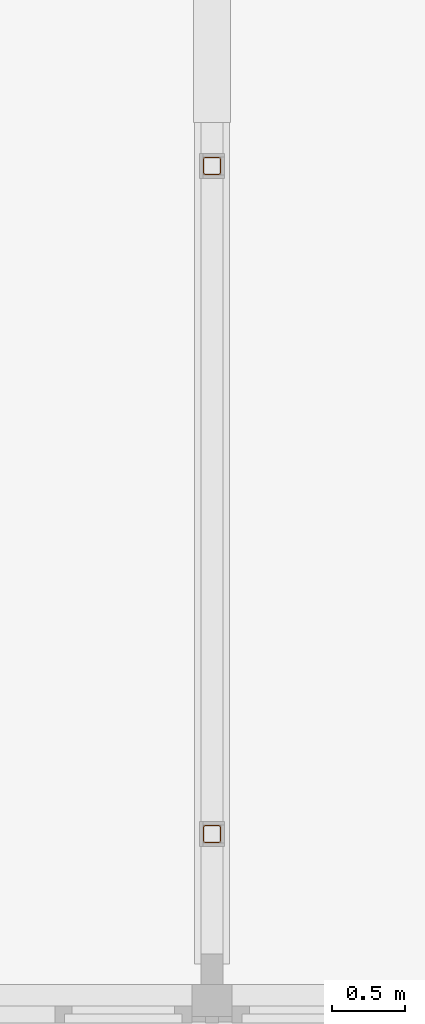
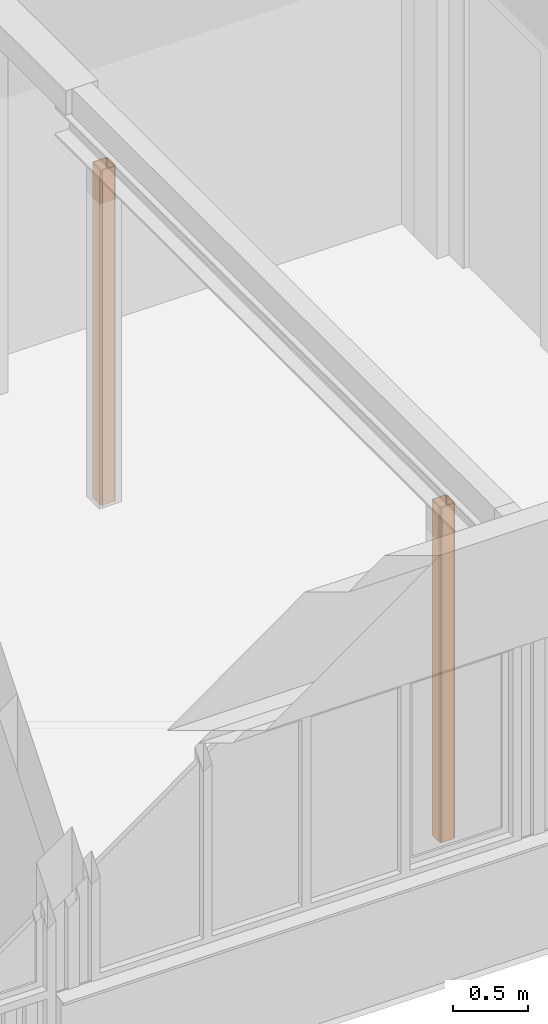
# One storey, part 103 of 117: 2 proxies.
"""IFC2X3 building model written with IfcOpenShell, lengths in millimetres."""

import ifcopenshell
import ifcopenshell.guid

model = None  # the IFC model being written
_history = None  # IfcOwnerHistory: only IFC2X3 demands one
_inside = {}  # id of a spatial element -> (the spatial element, [elements in it])
_under = {}  # id of a project, library or spatial element -> (it, [spatial elements below it])
_declared = {}  # id of a project -> (the project, [libraries it declares])
_typed = {}  # id of a type object -> (the type object, [elements of that type])
_made_of = {}  # id of a material, layer set ... -> (it, [elements and type objects made of it])


def new_model(schema):
    """Start an empty IFC model of exactly this schema.

    Asked for "IFC4X3", IfcOpenShell would pick the latest addendum, in which some entities
    have other attributes; the version numbers below select the first issue.
    IFC2X3 requires an IfcOwnerHistory on every rooted entity: one is made here for all.
    """
    global model, _history
    if schema == "IFC4X3":
        model = ifcopenshell.file(schema_version=(4, 3, 0, 0))
    else:
        model = ifcopenshell.file(schema=schema)
    _inside.clear()
    _under.clear()
    _declared.clear()
    _typed.clear()
    _made_of.clear()
    _history = None
    if model.schema == "IFC2X3":
        org = make("IfcOrganization", Name="unknown")
        user = make(
            "IfcPersonAndOrganization",
            ThePerson=make("IfcPerson", FamilyName="unknown"),
            TheOrganization=org,
        )
        app = make(
            "IfcApplication",
            ApplicationDeveloper=org,
            Version="unknown",
            ApplicationFullName="unknown",
            ApplicationIdentifier="unknown",
        )
        _history = make(
            "IfcOwnerHistory",
            OwningUser=user,
            OwningApplication=app,
            ChangeAction="ADDED",
            CreationDate=0,
        )
    return model


def make(cls, **values):
    """One entity of the class cls with the attributes given. An attribute that is None is left unset."""
    return model.create_entity(
        cls, **{name: value for name, value in values.items() if value is not None}
    )


def entity(cls, *values):
    """Any entity or typed value of the class cls, its attributes in the order of the schema. None: left unset."""
    e = model.create_entity(cls)
    for i, value in enumerate(values):
        if value is not None:
            e[i] = value
    return e


def rooted(cls, **values):
    """An entity with a GlobalId (a new one), such as an element, a storey or a relation."""
    return make(cls, GlobalId=ifcopenshell.guid.new(), OwnerHistory=_history, **values)


def si_unit(unit_type, name, prefix=None):
    """IfcSIUnit, for example si_unit("LENGTHUNIT", "METRE", prefix="MILLI")."""
    return make("IfcSIUnit", UnitType=unit_type, Prefix=prefix, Name=name)


def converted_unit(unit_type, name, factor, base, dimensions=None, offset=None):
    """IfcConversionBasedUnit, such as the inch: factor (a typed value) times the base unit."""
    return make(
        "IfcConversionBasedUnit"
        if offset is None
        else "IfcConversionBasedUnitWithOffset",
        ConversionOffset=offset,
        Dimensions=None
        if dimensions is None
        else entity("IfcDimensionalExponents", *dimensions),
        UnitType=unit_type,
        Name=name,
        ConversionFactor=make(
            "IfcMeasureWithUnit", ValueComponent=factor, UnitComponent=base
        ),
    )


def derived_unit(unit_type, elements):
    """IfcDerivedUnit: a product of units, each with its exponent."""
    return make(
        "IfcDerivedUnit",
        Elements=[
            make("IfcDerivedUnitElement", Unit=unit, Exponent=power)
            for unit, power in elements
        ],
        UnitType=unit_type,
    )


def money_unit(currency):
    """IfcMonetaryUnit."""
    return make("IfcMonetaryUnit", Currency=currency)


def assignment(units):
    """IfcUnitAssignment: the units of a project."""
    return None if units is None else make("IfcUnitAssignment", Units=units)


def point(xyz):
    """IfcCartesianPoint."""
    return None if xyz is None else make("IfcCartesianPoint", Coordinates=xyz)


def direction(xyz):
    """IfcDirection."""
    return None if xyz is None else make("IfcDirection", DirectionRatios=xyz)


def frame(location, z_axis=None, x_axis=None):
    """IfcAxis2Placement3D, a coordinate frame: its origin and axes. An axis left out is left unset."""
    return make(
        "IfcAxis2Placement3D",
        Location=point(location),
        Axis=direction(z_axis),
        RefDirection=direction(x_axis),
    )


def origin_with_axes():
    """The frame at (0, 0, 0) with the z axis (0, 0, 1) and the x axis (1, 0, 0) written out."""
    return frame((0.0, 0.0, 0.0), z_axis=(0.0, 0.0, 1.0), x_axis=(1.0, 0.0, 0.0))


def place(relative_to, where):
    """IfcLocalPlacement: puts the frame where relative to a parent placement (None: the world)."""
    return make(
        "IfcLocalPlacement", PlacementRelTo=relative_to, RelativePlacement=where
    )


def context(
    kind, dimensions, precision=None, world=None, true_north=None, identifier=None
):
    """IfcGeometricRepresentationContext, for example the 3D "Model" context."""
    return make(
        "IfcGeometricRepresentationContext",
        ContextIdentifier=identifier,
        ContextType=kind,
        CoordinateSpaceDimension=dimensions,
        Precision=precision,
        WorldCoordinateSystem=world,
        TrueNorth=true_north,
    )


def subcontext(parent, identifier, kind, view, scale=None):
    """IfcGeometricRepresentationSubContext, for example "Body" below "Model"."""
    return make(
        "IfcGeometricRepresentationSubContext",
        ContextIdentifier=identifier,
        ContextType=kind,
        ParentContext=parent,
        TargetScale=scale,
        TargetView=view,
    )


def project(units=None, contexts=None):
    """IfcProject with its units and contexts."""
    return rooted(
        "IfcProject",
        Name="project",
        RepresentationContexts=contexts,
        UnitsInContext=assignment(units),
    )


def spatial(cls, under=None, at=None, **own):
    """A site, building, storey or space (cls), placed at a placement, below another one or the project."""
    s = rooted(cls, ObjectPlacement=at, **own)
    if under is not None:
        _under.setdefault(under.id(), (under, []))[1].append(s)
    return s


def faces_of(points, faces, orient=None, outer=None):
    """IfcFace entities. A face is a list of loops; a loop is a list of indices into points, from 0.

    orient and outer hold one flag for each loop. By default every Orientation is true, the
    first loop of a face is its IfcFaceOuterBound and the others are IfcFaceBound.
    """
    made = []
    for i, loops in enumerate(faces):
        bounds = []
        for j, loop in enumerate(loops):
            is_outer = j == 0 if outer is None else outer[i][j]
            bounds.append(
                make(
                    "IfcFaceOuterBound" if is_outer else "IfcFaceBound",
                    Bound=make("IfcPolyLoop", Polygon=[points[k] for k in loop]),
                    Orientation=True if orient is None else orient[i][j],
                )
            )
        made.append(make("IfcFace", Bounds=bounds))
    return made


def faceted_brep(points, faces, orient=None, outer=None, voids=None):
    """IfcFacetedBrep: a solid bounded by flat faces; with voids (closed shells), ...WithVoids."""
    shared = [point(p) for p in points]
    hull = make("IfcClosedShell", CfsFaces=faces_of(shared, faces, orient, outer))
    if voids is None:
        return make("IfcFacetedBrep", Outer=hull)
    return make(
        "IfcFacetedBrepWithVoids",
        Outer=hull,
        Voids=[
            make(cls, CfsFaces=faces_of(shared, fs, o, b)) for cls, fs, o, b in voids
        ],
    )


def shape(context_of_items, identifier, shape_type, items):
    """IfcShapeRepresentation: the items that make up one representation, for example the "Body"."""
    return make(
        "IfcShapeRepresentation",
        ContextOfItems=context_of_items,
        RepresentationIdentifier=identifier,
        RepresentationType=shape_type,
        Items=items,
    )


def source(mapping_origin, context_of_items, identifier, shape_type, items):
    """IfcRepresentationMap: a shape defined once, which mapped items show again and again."""
    return make(
        "IfcRepresentationMap",
        MappingOrigin=mapping_origin,
        MappedRepresentation=shape(context_of_items, identifier, shape_type, items),
    )


def transform(
    local_origin,
    x_axis=None,
    y_axis=None,
    z_axis=None,
    scale=None,
    scale2=None,
    scale3=None,
    uniform=True,
):
    """IfcCartesianTransformationOperator3D, or its non-uniform kind. x_axis, y_axis, z_axis: its Axis1, 2, 3."""
    if uniform:
        return make(
            "IfcCartesianTransformationOperator3D",
            Axis1=direction(x_axis),
            Axis2=direction(y_axis),
            LocalOrigin=point(local_origin),
            Scale=scale,
            Axis3=direction(z_axis),
        )
    return make(
        "IfcCartesianTransformationOperator3DnonUniform",
        Axis1=direction(x_axis),
        Axis2=direction(y_axis),
        LocalOrigin=point(local_origin),
        Scale=scale,
        Axis3=direction(z_axis),
        Scale2=scale2,
        Scale3=scale3,
    )


def mapped(mapping_source, mapping_target):
    """IfcMappedItem: shows the shape of a source again, moved by a transform."""
    return make(
        "IfcMappedItem", MappingSource=mapping_source, MappingTarget=mapping_target
    )


def material(Name=None, Category=None):
    """IfcMaterial."""
    return make("IfcMaterial", Name=Name, Category=Category)


def made_of(thing, what):
    """Note that an element or type object is made of a material, layer set ...; save() writes the relation."""
    if what is not None:
        _made_of.setdefault(what.id(), (what, []))[1].append(thing)
    return thing


def type_object(cls, material=None, **own):
    """A type object (cls), such as IfcWallType, which elements share."""
    return made_of(rooted(cls, **own), material)


def type_shapes(of_type, sources):
    """Give a type object the sources (RepresentationMaps) that its elements show as mapped items."""
    of_type.RepresentationMaps = sources


def element(
    cls,
    number,
    at=None,
    inside=None,
    cuts=None,
    type_object=None,
    material=None,
    context=None,
    identifier="Body",
    shape_type=None,
    held_by="IfcProductDefinitionShape",
    body=None,
    shapes=None,
    **own,
):
    """One element of the class cls, such as IfcWall. Its Tag is "e" and its number.

    at: its placement. inside: the storey or other place that contains it. cuts: it is an
    opening in that element (IfcRelVoidsElement). A single representation is given by context,
    identifier, shape_type and body (its items); several are given by shapes. held_by: the class
    of the entity that holds the representations. save() writes the other relations.
    """
    e = rooted(cls, Tag="e%d" % number, ObjectPlacement=at, **own)
    if body is not None:
        shapes = [shape(context, identifier, shape_type, body)]
    if shapes is not None:
        e.Representation = make(held_by, Representations=shapes)
    if inside is not None:
        _inside.setdefault(inside.id(), (inside, []))[1].append(e)
    if cuts is not None:
        rooted(
            "IfcRelVoidsElement", RelatingBuildingElement=cuts, RelatedOpeningElement=e
        )
    if type_object is not None:
        _typed.setdefault(type_object.id(), (type_object, []))[1].append(e)
    return made_of(e, material)


def aggregate(whole, parts):
    """IfcRelAggregates: a whole, such as a stair, and the parts it consists of."""
    return rooted("IfcRelAggregates", RelatingObject=whole, RelatedObjects=parts)


def save(model, path):
    """Write the relations noted so far, then the file.

    IfcRelAggregates (storeys below a building ...), IfcRelContainedInSpatialStructure (elements
    in a storey), IfcRelDefinesByType, IfcRelAssociatesMaterial and IfcRelDeclares: one each for
    every whole, place, type object, material and project.
    """
    for whole, parts in _under.values():
        aggregate(whole, parts)
    for where, things in _inside.values():
        rooted(
            "IfcRelContainedInSpatialStructure",
            RelatedElements=things,
            RelatingStructure=where,
        )
    for kind, things in _typed.values():
        rooted("IfcRelDefinesByType", RelatedObjects=things, RelatingType=kind)
    for what, things in _made_of.values():
        rooted("IfcRelAssociatesMaterial", RelatedObjects=things, RelatingMaterial=what)
    for by, libraries in _declared.values():
        rooted("IfcRelDeclares", RelatingContext=by, RelatedDefinitions=libraries)
    model.write(path)


model = new_model("IFC2X3")

# Units and contexts
model_context = context("Model", 3, precision=0.01, world=origin_with_axes(), true_north=direction((0.0, 1.0)))
body_context = subcontext(model_context, "Body", "Model", "MODEL_VIEW")
ifc_project = project(units=[si_unit("LENGTHUNIT", "METRE", prefix="MILLI"), si_unit("AREAUNIT", "SQUARE_METRE"), si_unit("VOLUMEUNIT", "CUBIC_METRE"), converted_unit("PLANEANGLEUNIT", "DEGREE", entity("IfcPlaneAngleMeasure", 0.0174532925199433), si_unit("PLANEANGLEUNIT", "RADIAN"), dimensions=[0, 0, 0, 0, 0, 0, 0]), money_unit("EUR"), converted_unit("TIMEUNIT", "Year", entity("IfcTimeMeasure", 31557600.0), si_unit("TIMEUNIT", "SECOND"), dimensions=[0, 0, 1, 0, 0, 0, 0]), si_unit("MASSUNIT", "GRAM", prefix="KILO"), si_unit("THERMODYNAMICTEMPERATUREUNIT", "DEGREE_CELSIUS"), si_unit("LUMINOUSINTENSITYUNIT", "LUMEN"), si_unit("ENERGYUNIT", "JOULE", prefix="MEGA"), derived_unit("THERMALCONDUCTANCEUNIT", [(si_unit("POWERUNIT", "WATT"), 1), (si_unit("LENGTHUNIT", "METRE"), -1), (si_unit("THERMODYNAMICTEMPERATUREUNIT", "KELVIN"), -1)]), derived_unit("SPECIFICHEATCAPACITYUNIT", [(si_unit("ENERGYUNIT", "JOULE"), 1), (si_unit("MASSUNIT", "GRAM", prefix="KILO"), -1), (si_unit("THERMODYNAMICTEMPERATUREUNIT", "KELVIN"), -1)]), derived_unit("MASSDENSITYUNIT", [(si_unit("MASSUNIT", "GRAM", prefix="KILO"), 1), (si_unit("VOLUMEUNIT", "CUBIC_METRE"), -1)])], contexts=[model_context])

# Site, building, storey
site_placement = place(None, origin_with_axes())
site = spatial("IfcSite", under=ifc_project, at=site_placement, Name="Site", CompositionType="ELEMENT")
building_placement = place(site_placement, origin_with_axes())
building = spatial("IfcBuilding", under=site, at=building_placement, Name="Naam gebouw", CompositionType="ELEMENT")
storey_placement = place(building_placement, frame((0.0, 0.0, 4150.0), z_axis=(0.0, 0.0, 1.0), x_axis=(1.0, 0.0, 0.0)))
storey = spatial("IfcBuildingStorey", under=building, at=storey_placement, Name="1e verdieping N", CompositionType="ELEMENT", Elevation=4150.0)

# Proxies
ifc_material = material(Name="Metaal - Staal AFW")
building_element_proxy_type = type_object("IfcBuildingElementProxyType", Name="Buis vk warmgew kolom 27", PredefinedType="NOTDEFINED")
shared_shape = source(origin_with_axes(), body_context, "Body", "Brep", [
    faceted_brep([(47.4, -60.0, 0.0), (47.4, -60.0, 2740.0), (-47.4, -60.0, 2740.0), (-47.4, -60.0, 0.0), (56.3095454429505, -56.3095454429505, 0.0), (56.3095454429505, -56.3095454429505, 2740.0), (60.0, -47.4, 2740.0), (60.0, 47.4, 2740.0), (56.3095454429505, 56.3095454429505, 2740.0), (47.4, 60.0, 2740.0), (-47.4, 60.0, 2740.0), (-56.3095454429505, 56.3095454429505, 2740.0), (-60.0, 47.4, 2740.0), (-60.0, -47.4, 2740.0), (-56.3095454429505, -56.3095454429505, 2740.0), (47.4, -53.7, 2740.0), (-47.4, -53.7, 2740.0), (-51.85477272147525, -51.85477272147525, 2740.0), (-53.7, -47.4, 2740.0), (-53.7, 47.4, 2740.0), (-51.85477272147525, 51.85477272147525, 2740.0), (-47.4, 53.7, 2740.0), (47.4, 53.7, 2740.0), (51.85477272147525, 51.85477272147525, 2740.0), (53.7, 47.4, 2740.0), (53.7, -47.4, 2740.0), (51.85477272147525, -51.85477272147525, 2740.0), (-56.3095454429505, -56.3095454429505, 0.0), (-60.0, -47.4, 0.0), (-60.0, 47.4, 0.0), (-56.3095454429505, 56.3095454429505, 0.0), (-47.4, 60.0, 0.0), (47.4, 60.0, 0.0), (56.3095454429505, 56.3095454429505, 0.0), (60.0, 47.4, 0.0), (60.0, -47.4, 0.0), (47.4, -53.7, 0.0), (51.85477272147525, -51.85477272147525, 0.0), (53.7, -47.4, 0.0), (53.7, 47.4, 0.0), (51.85477272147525, 51.85477272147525, 0.0), (47.4, 53.7, 0.0), (-47.4, 53.7, 0.0), (-51.85477272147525, 51.85477272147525, 0.0), (-53.7, 47.4, 0.0), (-53.7, -47.4, 0.0), (-51.85477272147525, -51.85477272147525, 0.0), (-47.4, -53.7, 0.0)], [[[0, 1, 2, 3]], [[4, 5, 1, 0]], [[1, 5, 6, 7, 8, 9, 10, 11, 12, 13, 14, 2], [15, 16, 17, 18, 19, 20, 21, 22, 23, 24, 25, 26]], [[3, 2, 14, 27]], [[0, 3, 27, 28, 29, 30, 31, 32, 33, 34, 35, 4], [36, 37, 38, 39, 40, 41, 42, 43, 44, 45, 46, 47]], [[35, 6, 5, 4]], [[34, 7, 6, 35]], [[33, 8, 7, 34]], [[32, 9, 8, 33]], [[31, 10, 9, 32]], [[30, 11, 10, 31]], [[29, 12, 11, 30]], [[28, 13, 12, 29]], [[27, 14, 13, 28]], [[47, 16, 15, 36]], [[46, 17, 16, 47]], [[45, 18, 17, 46]], [[44, 19, 18, 45]], [[43, 20, 19, 44]], [[42, 21, 20, 43]], [[41, 22, 21, 42]], [[40, 23, 22, 41]], [[39, 24, 23, 40]], [[38, 25, 24, 39]], [[37, 26, 25, 38]], [[36, 15, 26, 37]]]),
])
type_shapes(building_element_proxy_type, [shared_shape])
for number, where, z_axis, x_axis, name in (
    (1, (39600.00000000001, 12015.91242510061, 0.0), (0.0, 0.0, 1.0), (0.0, -1.0, 0.0), "_Boom-x"),
    (2, (39600.00000000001, 16560.91242510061, 0.0), (0.0, 0.0, 1.0), (0.0, -1.0, 0.0), "_Boom-x"),
):
    element("IfcBuildingElementProxy", number, at=place(storey_placement, frame(where, z_axis=z_axis, x_axis=x_axis)), inside=storey, type_object=building_element_proxy_type, material=ifc_material, Name=name, context=body_context, shape_type="MappedRepresentation", body=[
        mapped(shared_shape, transform((0.0, 0.0, 0.0))),
    ])

save(model, "model.ifc")
